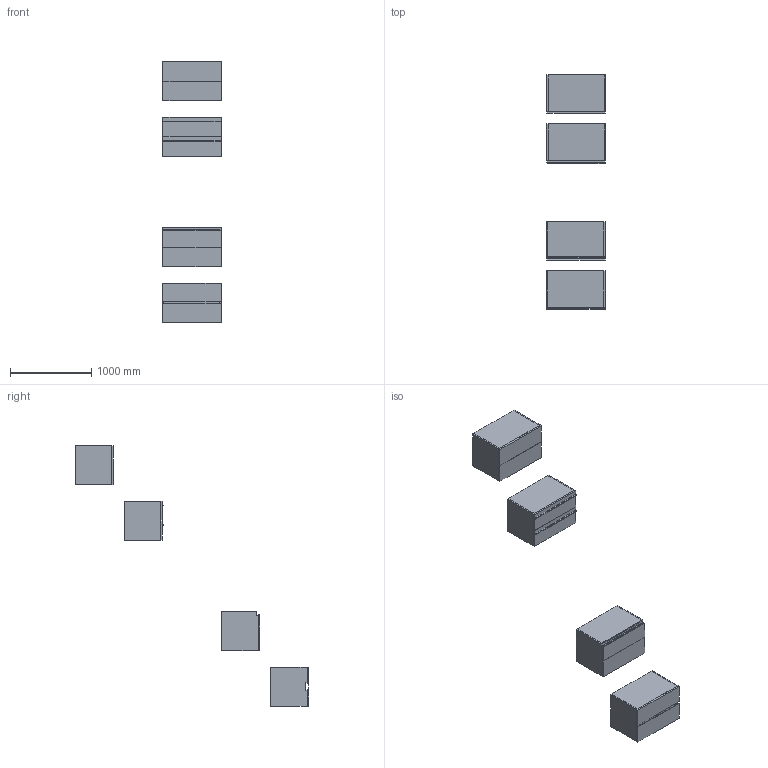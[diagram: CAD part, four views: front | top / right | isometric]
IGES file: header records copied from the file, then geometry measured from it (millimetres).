
Start section: Data from Parasolid IGES Translator 19.0.9, Copyright(c) 2006 Siemens PL M Software. All Rights Reserved.
Global section: file name: noorth-SI-H 48 D 47 W 72_8493.igs; native system: By Siemens PLM Incorporated; preprocessor: XPlus GENERIC/IGES 19.0.9; author: Noname; organization: Noname; date: 20200601.110241; units: metre
Bounding box: 722.66 x 2869.1 x 3200.01 mm (x, y, z)
Volume: 95391068.2 mm3; surface area: 14655119.7 mm2
Topology: 33 solids, 33 shells, 318 faces, 700 edges, 428 vertices
Faces by surface type: plane 230, extrusion 36, bspline 32, cylinder 20
